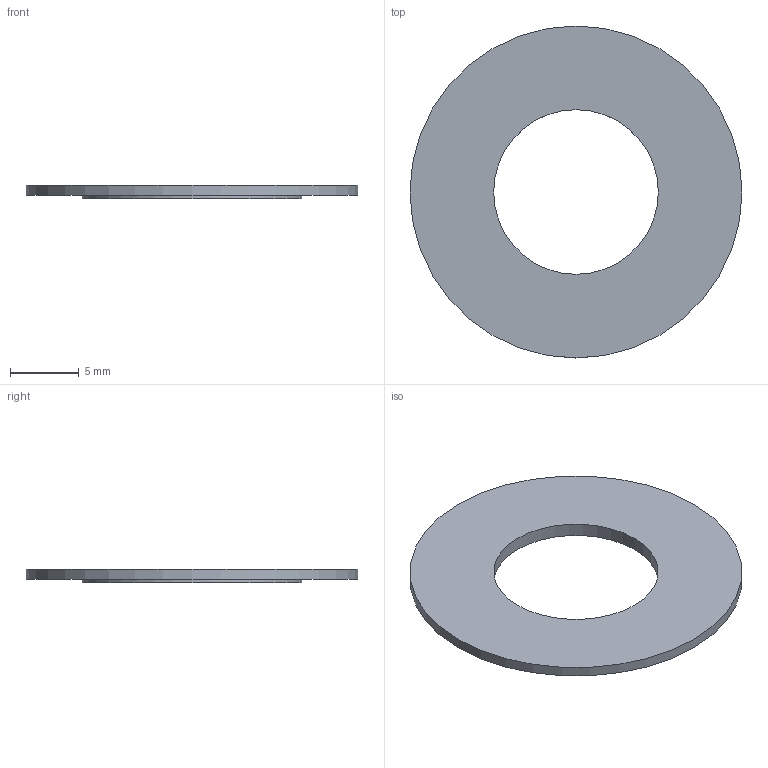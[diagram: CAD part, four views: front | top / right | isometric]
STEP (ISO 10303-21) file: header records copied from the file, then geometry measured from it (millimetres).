
FILE_DESCRIPTION(('Open CASCADE Model'),'2;1');
FILE_NAME('Open CASCADE Shape Model','2026-09-23T14:07:30',('Author'),( 'Open CASCADE'),'Open CASCADE STEP processor 7.9','Open CASCADE 7.9' ,'Unknown');
FILE_SCHEMA(('AUTOMOTIVE_DESIGN { 1 0 10303 214 1 1 1 1 }'));
Length unit declared in the file: millimetre
Products named in the file (1): Open CASCADE STEP translator 7.9 1
Bounding box: 24.2 x 24.2 x 1 mm (x, y, z)
Volume: 282.1 mm3; surface area: 801 mm2
Topology: 1 solids, 1 shells, 6 faces, 9 edges, 6 vertices
Faces by surface type: plane 3, cylinder 3
Full cylindrical faces by diameter (mm): 12 x1, 16 x1, 24.2 x1
Entity records: 270 total; most frequent: DIRECTION 47, CARTESIAN_POINT 40, ORIENTED_EDGE 18, PCURVE 18, DEFINITIONAL_REPRESENTATION 18, LINE 15, VECTOR 15, AXIS2_PLACEMENT_3D 13
